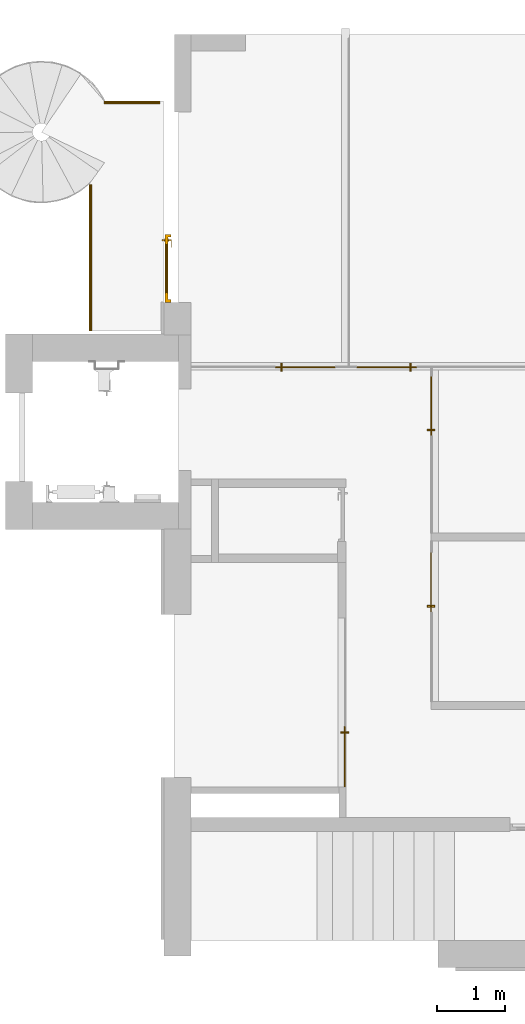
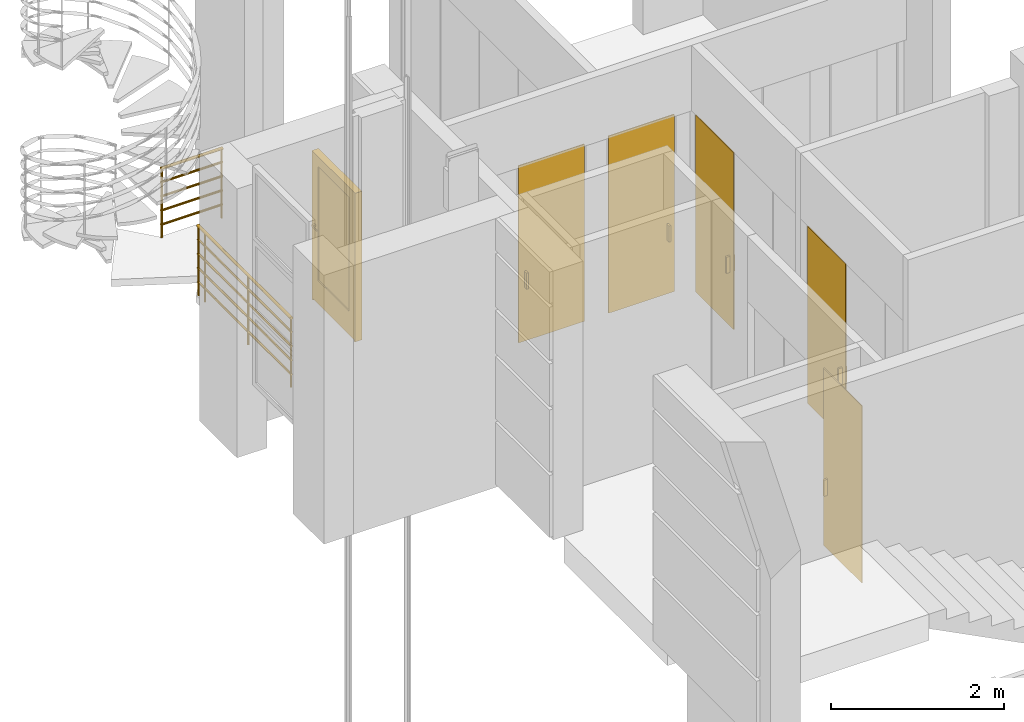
# One storey, part 9 of 14: 6 doors, 2 railings, 4 elements without a shape of their own.
"""IFC2X3 building model written with IfcOpenShell, lengths in millimetres."""

import ifcopenshell
import ifcopenshell.guid

model = None  # the IFC model being written
_history = None  # IfcOwnerHistory: only IFC2X3 demands one
_inside = {}  # id of a spatial element -> (the spatial element, [elements in it])
_under = {}  # id of a project, library or spatial element -> (it, [spatial elements below it])
_declared = {}  # id of a project -> (the project, [libraries it declares])
_typed = {}  # id of a type object -> (the type object, [elements of that type])
_made_of = {}  # id of a material, layer set ... -> (it, [elements and type objects made of it])


def new_model(schema):
    """Start an empty IFC model of exactly this schema.

    Asked for "IFC4X3", IfcOpenShell would pick the latest addendum, in which some entities
    have other attributes; the version numbers below select the first issue.
    IFC2X3 requires an IfcOwnerHistory on every rooted entity: one is made here for all.
    """
    global model, _history
    if schema == "IFC4X3":
        model = ifcopenshell.file(schema_version=(4, 3, 0, 0))
    else:
        model = ifcopenshell.file(schema=schema)
    _inside.clear()
    _under.clear()
    _declared.clear()
    _typed.clear()
    _made_of.clear()
    _history = None
    if model.schema == "IFC2X3":
        org = make("IfcOrganization", Name="unknown")
        user = make(
            "IfcPersonAndOrganization",
            ThePerson=make("IfcPerson", FamilyName="unknown"),
            TheOrganization=org,
        )
        app = make(
            "IfcApplication",
            ApplicationDeveloper=org,
            Version="unknown",
            ApplicationFullName="unknown",
            ApplicationIdentifier="unknown",
        )
        _history = make(
            "IfcOwnerHistory",
            OwningUser=user,
            OwningApplication=app,
            ChangeAction="ADDED",
            CreationDate=0,
        )
    return model


def make(cls, **values):
    """One entity of the class cls with the attributes given. An attribute that is None is left unset."""
    return model.create_entity(
        cls, **{name: value for name, value in values.items() if value is not None}
    )


def entity(cls, *values):
    """Any entity or typed value of the class cls, its attributes in the order of the schema. None: left unset."""
    e = model.create_entity(cls)
    for i, value in enumerate(values):
        if value is not None:
            e[i] = value
    return e


def rooted(cls, **values):
    """An entity with a GlobalId (a new one), such as an element, a storey or a relation."""
    return make(cls, GlobalId=ifcopenshell.guid.new(), OwnerHistory=_history, **values)


def si_unit(unit_type, name, prefix=None):
    """IfcSIUnit, for example si_unit("LENGTHUNIT", "METRE", prefix="MILLI")."""
    return make("IfcSIUnit", UnitType=unit_type, Prefix=prefix, Name=name)


def converted_unit(unit_type, name, factor, base, dimensions=None, offset=None):
    """IfcConversionBasedUnit, such as the inch: factor (a typed value) times the base unit."""
    return make(
        "IfcConversionBasedUnit"
        if offset is None
        else "IfcConversionBasedUnitWithOffset",
        ConversionOffset=offset,
        Dimensions=None
        if dimensions is None
        else entity("IfcDimensionalExponents", *dimensions),
        UnitType=unit_type,
        Name=name,
        ConversionFactor=make(
            "IfcMeasureWithUnit", ValueComponent=factor, UnitComponent=base
        ),
    )


def derived_unit(unit_type, elements):
    """IfcDerivedUnit: a product of units, each with its exponent."""
    return make(
        "IfcDerivedUnit",
        Elements=[
            make("IfcDerivedUnitElement", Unit=unit, Exponent=power)
            for unit, power in elements
        ],
        UnitType=unit_type,
    )


def assignment(units):
    """IfcUnitAssignment: the units of a project."""
    return None if units is None else make("IfcUnitAssignment", Units=units)


def point(xyz):
    """IfcCartesianPoint."""
    return None if xyz is None else make("IfcCartesianPoint", Coordinates=xyz)


def direction(xyz):
    """IfcDirection."""
    return None if xyz is None else make("IfcDirection", DirectionRatios=xyz)


def frame(location, z_axis=None, x_axis=None):
    """IfcAxis2Placement3D, a coordinate frame: its origin and axes. An axis left out is left unset."""
    return make(
        "IfcAxis2Placement3D",
        Location=point(location),
        Axis=direction(z_axis),
        RefDirection=direction(x_axis),
    )


def frame_2d(location, x_axis=None):
    """IfcAxis2Placement2D, a coordinate frame in the plane: its origin and x axis."""
    return make(
        "IfcAxis2Placement2D", Location=point(location), RefDirection=direction(x_axis)
    )


def origin():
    """The frame at (0, 0, 0) with its axes left unset."""
    return frame((0.0, 0.0, 0.0))


def origin_2d_with_axis():
    """The frame at (0, 0) in the plane with the x axis (1, 0) written out."""
    return frame_2d((0.0, 0.0), x_axis=(1.0, 0.0))


def place(relative_to, where):
    """IfcLocalPlacement: puts the frame where relative to a parent placement (None: the world)."""
    return make(
        "IfcLocalPlacement", PlacementRelTo=relative_to, RelativePlacement=where
    )


def context(
    kind, dimensions, precision=None, world=None, true_north=None, identifier=None
):
    """IfcGeometricRepresentationContext, for example the 3D "Model" context."""
    return make(
        "IfcGeometricRepresentationContext",
        ContextIdentifier=identifier,
        ContextType=kind,
        CoordinateSpaceDimension=dimensions,
        Precision=precision,
        WorldCoordinateSystem=world,
        TrueNorth=true_north,
    )


def subcontext(parent, identifier, kind, view, scale=None):
    """IfcGeometricRepresentationSubContext, for example "Body" below "Model"."""
    return make(
        "IfcGeometricRepresentationSubContext",
        ContextIdentifier=identifier,
        ContextType=kind,
        ParentContext=parent,
        TargetScale=scale,
        TargetView=view,
    )


def project(units=None, contexts=None):
    """IfcProject with its units and contexts."""
    return rooted(
        "IfcProject",
        Name="project",
        RepresentationContexts=contexts,
        UnitsInContext=assignment(units),
    )


def spatial(cls, under=None, at=None, **own):
    """A site, building, storey or space (cls), placed at a placement, below another one or the project."""
    s = rooted(cls, ObjectPlacement=at, **own)
    if under is not None:
        _under.setdefault(under.id(), (under, []))[1].append(s)
    return s


def profile(cls, at=None, kind="AREA", **sizes):
    """A parametric profile (cls). Its sizes go by their IFC names, for example OverallWidth=200.0."""
    return make(cls, ProfileType=kind, Position=at, **sizes)


def rectangle(**sizes):
    """IfcRectangleProfileDef."""
    return profile("IfcRectangleProfileDef", **sizes)


def circle(**sizes):
    """IfcCircleProfileDef."""
    return profile("IfcCircleProfileDef", **sizes)


def extrude(swept, where, along, depth):
    """IfcExtrudedAreaSolid: the profile swept, set in the frame where, extruded along a direction by depth."""
    return make(
        "IfcExtrudedAreaSolid",
        SweptArea=swept,
        Position=where,
        ExtrudedDirection=direction(along),
        Depth=depth,
    )


def faces_of(points, faces, orient=None, outer=None):
    """IfcFace entities. A face is a list of loops; a loop is a list of indices into points, from 0.

    orient and outer hold one flag for each loop. By default every Orientation is true, the
    first loop of a face is its IfcFaceOuterBound and the others are IfcFaceBound.
    """
    made = []
    for i, loops in enumerate(faces):
        bounds = []
        for j, loop in enumerate(loops):
            is_outer = j == 0 if outer is None else outer[i][j]
            bounds.append(
                make(
                    "IfcFaceOuterBound" if is_outer else "IfcFaceBound",
                    Bound=make("IfcPolyLoop", Polygon=[points[k] for k in loop]),
                    Orientation=True if orient is None else orient[i][j],
                )
            )
        made.append(make("IfcFace", Bounds=bounds))
    return made


def faceted_brep(points, faces, orient=None, outer=None, voids=None):
    """IfcFacetedBrep: a solid bounded by flat faces; with voids (closed shells), ...WithVoids."""
    shared = [point(p) for p in points]
    hull = make("IfcClosedShell", CfsFaces=faces_of(shared, faces, orient, outer))
    if voids is None:
        return make("IfcFacetedBrep", Outer=hull)
    return make(
        "IfcFacetedBrepWithVoids",
        Outer=hull,
        Voids=[
            make(cls, CfsFaces=faces_of(shared, fs, o, b)) for cls, fs, o, b in voids
        ],
    )


def shape(context_of_items, identifier, shape_type, items):
    """IfcShapeRepresentation: the items that make up one representation, for example the "Body"."""
    return make(
        "IfcShapeRepresentation",
        ContextOfItems=context_of_items,
        RepresentationIdentifier=identifier,
        RepresentationType=shape_type,
        Items=items,
    )


def source(mapping_origin, context_of_items, identifier, shape_type, items):
    """IfcRepresentationMap: a shape defined once, which mapped items show again and again."""
    return make(
        "IfcRepresentationMap",
        MappingOrigin=mapping_origin,
        MappedRepresentation=shape(context_of_items, identifier, shape_type, items),
    )


def transform(
    local_origin,
    x_axis=None,
    y_axis=None,
    z_axis=None,
    scale=None,
    scale2=None,
    scale3=None,
    uniform=True,
):
    """IfcCartesianTransformationOperator3D, or its non-uniform kind. x_axis, y_axis, z_axis: its Axis1, 2, 3."""
    if uniform:
        return make(
            "IfcCartesianTransformationOperator3D",
            Axis1=direction(x_axis),
            Axis2=direction(y_axis),
            LocalOrigin=point(local_origin),
            Scale=scale,
            Axis3=direction(z_axis),
        )
    return make(
        "IfcCartesianTransformationOperator3DnonUniform",
        Axis1=direction(x_axis),
        Axis2=direction(y_axis),
        LocalOrigin=point(local_origin),
        Scale=scale,
        Axis3=direction(z_axis),
        Scale2=scale2,
        Scale3=scale3,
    )


def mapped(mapping_source, mapping_target):
    """IfcMappedItem: shows the shape of a source again, moved by a transform."""
    return make(
        "IfcMappedItem", MappingSource=mapping_source, MappingTarget=mapping_target
    )


def material(Name=None, Category=None):
    """IfcMaterial."""
    return make("IfcMaterial", Name=Name, Category=Category)


def material_list(materials):
    """IfcMaterialList."""
    return make("IfcMaterialList", Materials=materials)


def made_of(thing, what):
    """Note that an element or type object is made of a material, layer set ...; save() writes the relation."""
    if what is not None:
        _made_of.setdefault(what.id(), (what, []))[1].append(thing)
    return thing


def type_object(cls, material=None, **own):
    """A type object (cls), such as IfcWallType, which elements share."""
    return made_of(rooted(cls, **own), material)


def type_shapes(of_type, sources):
    """Give a type object the sources (RepresentationMaps) that its elements show as mapped items."""
    of_type.RepresentationMaps = sources


def element(
    cls,
    number,
    at=None,
    inside=None,
    cuts=None,
    type_object=None,
    material=None,
    context=None,
    identifier="Body",
    shape_type=None,
    held_by="IfcProductDefinitionShape",
    body=None,
    shapes=None,
    **own,
):
    """One element of the class cls, such as IfcWall. Its Tag is "e" and its number.

    at: its placement. inside: the storey or other place that contains it. cuts: it is an
    opening in that element (IfcRelVoidsElement). A single representation is given by context,
    identifier, shape_type and body (its items); several are given by shapes. held_by: the class
    of the entity that holds the representations. save() writes the other relations.
    """
    e = rooted(cls, Tag="e%d" % number, ObjectPlacement=at, **own)
    if body is not None:
        shapes = [shape(context, identifier, shape_type, body)]
    if shapes is not None:
        e.Representation = make(held_by, Representations=shapes)
    if inside is not None:
        _inside.setdefault(inside.id(), (inside, []))[1].append(e)
    if cuts is not None:
        rooted(
            "IfcRelVoidsElement", RelatingBuildingElement=cuts, RelatedOpeningElement=e
        )
    if type_object is not None:
        _typed.setdefault(type_object.id(), (type_object, []))[1].append(e)
    return made_of(e, material)


def aggregate(whole, parts):
    """IfcRelAggregates: a whole, such as a stair, and the parts it consists of."""
    return rooted("IfcRelAggregates", RelatingObject=whole, RelatedObjects=parts)


def save(model, path):
    """Write the relations noted so far, then the file.

    IfcRelAggregates (storeys below a building ...), IfcRelContainedInSpatialStructure (elements
    in a storey), IfcRelDefinesByType, IfcRelAssociatesMaterial and IfcRelDeclares: one each for
    every whole, place, type object, material and project.
    """
    for whole, parts in _under.values():
        aggregate(whole, parts)
    for where, things in _inside.values():
        rooted(
            "IfcRelContainedInSpatialStructure",
            RelatedElements=things,
            RelatingStructure=where,
        )
    for kind, things in _typed.values():
        rooted("IfcRelDefinesByType", RelatedObjects=things, RelatingType=kind)
    for what, things in _made_of.values():
        rooted("IfcRelAssociatesMaterial", RelatedObjects=things, RelatingMaterial=what)
    for by, libraries in _declared.values():
        rooted("IfcRelDeclares", RelatingContext=by, RelatedDefinitions=libraries)
    model.write(path)


model = new_model("IFC2X3")

# Units and contexts
model_context = context("Model", 3, precision=0.01, world=origin(), true_north=direction((6.12303176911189e-17, 1.0)))
body_context = subcontext(model_context, "Body", "Model", "MODEL_VIEW")
ifc_project = project(units=[si_unit("LENGTHUNIT", "METRE", prefix="MILLI"), si_unit("AREAUNIT", "SQUARE_METRE"), si_unit("VOLUMEUNIT", "CUBIC_METRE"), converted_unit("PLANEANGLEUNIT", "DEGREE", entity("IfcRatioMeasure", 0.0174532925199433), si_unit("PLANEANGLEUNIT", "RADIAN"), dimensions=[0, 0, 0, 0, 0, 0, 0]), si_unit("MASSUNIT", "GRAM", prefix="KILO"), derived_unit("MASSDENSITYUNIT", [(si_unit("MASSUNIT", "GRAM", prefix="KILO"), 1), (si_unit("LENGTHUNIT", "METRE"), -3)]), si_unit("TIMEUNIT", "SECOND"), si_unit("FREQUENCYUNIT", "HERTZ"), si_unit("THERMODYNAMICTEMPERATUREUNIT", "DEGREE_CELSIUS"), derived_unit("THERMALTRANSMITTANCEUNIT", [(si_unit("MASSUNIT", "GRAM", prefix="KILO"), 1), (si_unit("THERMODYNAMICTEMPERATUREUNIT", "KELVIN"), -1), (si_unit("TIMEUNIT", "SECOND"), -3)]), derived_unit("VOLUMETRICFLOWRATEUNIT", [(si_unit("LENGTHUNIT", "METRE"), 3), (si_unit("TIMEUNIT", "SECOND"), -1)]), si_unit("ELECTRICCURRENTUNIT", "AMPERE"), si_unit("ELECTRICVOLTAGEUNIT", "VOLT"), si_unit("POWERUNIT", "WATT"), si_unit("FORCEUNIT", "NEWTON", prefix="KILO"), si_unit("ILLUMINANCEUNIT", "LUX"), si_unit("LUMINOUSFLUXUNIT", "LUMEN"), si_unit("LUMINOUSINTENSITYUNIT", "CANDELA"), derived_unit("USERDEFINED", [(si_unit("MASSUNIT", "GRAM", prefix="KILO"), -1), (si_unit("LENGTHUNIT", "METRE"), -2), (si_unit("TIMEUNIT", "SECOND"), 3), (si_unit("LUMINOUSFLUXUNIT", "LUMEN"), 1)]), derived_unit("LINEARVELOCITYUNIT", [(si_unit("LENGTHUNIT", "METRE"), 1), (si_unit("TIMEUNIT", "SECOND"), -1)]), si_unit("PRESSUREUNIT", "PASCAL"), derived_unit("USERDEFINED", [(si_unit("LENGTHUNIT", "METRE"), -2), (si_unit("MASSUNIT", "GRAM", prefix="KILO"), 1), (si_unit("TIMEUNIT", "SECOND"), -2)])], contexts=[model_context])

# Site, building, storey
site_placement = place(None, frame((-151.875543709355, 2715.0, 0.0)))
site = spatial("IfcSite", under=ifc_project, at=site_placement, Name="Surface", CompositionType="ELEMENT")
building_placement = place(site_placement, origin())
building = spatial("IfcBuilding", under=site, at=building_placement, CompositionType="ELEMENT")
storey_placement = place(building_placement, frame((0.0, 0.0, 3875.0)))
storey = spatial("IfcBuildingStorey", under=building, at=storey_placement, Name="uus 2 korrus", CompositionType="ELEMENT", Elevation=3875.00000000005)

# Door
ifc_material_1 = material(Name="_Alumiiniumprofiil - must")
ifc_material_2 = material(Name="Steel/Aluminium")
ifc_material_3 = material(Name="Glass")
ifc_material_list_1 = material_list([ifc_material_1, ifc_material_2, ifc_material_3])
ifc_material_list_2 = material_list([ifc_material_1, ifc_material_2, ifc_material_3])
door_style_1 = type_object("IfcDoorStyle", Name="1000x2100_klaasiga_välisuks", ConstructionType="NOTDEFINED", OperationType="FOLDING_TO_LEFT", ParameterTakesPrecedence=False, Sizeable=False, material=ifc_material_list_2)
shared_shape_1 = source(origin(), body_context, "Body", "Brep", [
    faceted_brep([(900.0, 42.0, 1112.5), (805.0, 42.0, 1112.5), (805.0, 37.0, 1112.5), (925.0, 37.0, 1112.5), (925.0, 80.0, 1112.5), (900.0, 80.0, 1112.5), (900.0, 42.0, 1087.5), (900.0, 80.0, 1087.5), (925.0, 80.0, 1087.5), (925.0, 37.0, 1087.5), (805.0, 37.0, 1087.5), (805.0, 42.0, 1087.5)], [[[0, 1, 2, 3, 4, 5]], [[6, 7, 8, 9, 10, 11]], [[5, 7, 6, 0]], [[4, 8, 7, 5]], [[3, 9, 8, 4]], [[2, 10, 9, 3]], [[1, 11, 10, 2]], [[0, 6, 11, 1]]]),
    faceted_brep([(887.500000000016, 80.0, 1137.5), (937.500000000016, 80.0, 1137.5), (937.500000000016, 82.0, 1137.5), (887.500000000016, 82.0, 1137.5), (887.500000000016, 80.0, 1017.5), (887.500000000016, 82.0, 1017.5), (937.500000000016, 82.0, 1017.5), (937.500000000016, 80.0, 1017.5)], [[[0, 1, 2, 3]], [[4, 5, 6, 7]], [[3, 5, 4, 0]], [[2, 6, 5, 3]], [[1, 7, 6, 2]], [[0, 4, 7, 1]]]),
    faceted_brep([(900.0, 172.0, 1112.5), (900.0, 134.0, 1112.5), (925.0, 134.0, 1112.5), (925.0, 177.0, 1112.5), (805.0, 177.0, 1112.5), (805.0, 172.0, 1112.5), (900.0, 172.0, 1087.5), (805.0, 172.0, 1087.5), (805.0, 177.0, 1087.5), (925.0, 177.0, 1087.5), (925.0, 134.0, 1087.5), (900.0, 134.0, 1087.5)], [[[0, 1, 2, 3, 4, 5]], [[6, 7, 8, 9, 10, 11]], [[1, 0, 6, 11]], [[2, 1, 11, 10]], [[3, 2, 10, 9]], [[4, 3, 9, 8]], [[5, 4, 8, 7]], [[0, 5, 7, 6]]]),
    faceted_brep([(887.500000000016, 134.0, 1137.5), (887.500000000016, 132.0, 1137.5), (937.500000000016, 132.0, 1137.5), (937.500000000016, 134.0, 1137.5), (887.500000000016, 134.0, 1017.5), (937.500000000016, 134.0, 1017.5), (937.500000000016, 132.0, 1017.5), (887.500000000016, 132.0, 1017.5)], [[[0, 1, 2, 3]], [[4, 5, 6, 7]], [[1, 0, 4, 7]], [[2, 1, 7, 6]], [[3, 2, 6, 5]], [[0, 3, 5, 4]]]),
    faceted_brep([(0.0, 42.0, 0.0), (0.0, 132.0, 0.0), (25.0, 132.0, 0.0), (25.0, 82.0, 0.0), (40.0, 82.0, 0.0), (40.0, 42.0, 0.0), (40.0, 42.0, 2060.0), (960.0, 42.0, 2060.0), (960.0, 42.0, 0.0), (1000.0, 42.0, 0.0), (1000.0, 42.0, 2100.0), (0.0, 42.0, 2100.0), (40.0, 82.0, 2060.0), (25.0, 82.0, 2075.0), (975.0, 82.0, 2075.0), (975.0, 82.0, 0.0), (960.0, 82.0, 0.0), (960.0, 82.0, 2060.0), (25.0, 132.0, 2075.0), (0.0, 132.0, 2100.0), (1000.0, 132.0, 2100.0), (1000.0, 132.0, 0.0), (975.0, 132.0, 0.0), (975.0, 132.0, 2075.0)], [[[0, 1, 2, 3, 4, 5]], [[5, 6, 7, 8, 9, 10, 11, 0]], [[4, 12, 6, 5]], [[3, 13, 14, 15, 16, 17, 12, 4]], [[2, 18, 13, 3]], [[1, 19, 20, 21, 22, 23, 18, 2]], [[0, 11, 19, 1]], [[9, 21, 20, 10]], [[8, 16, 15, 22, 21, 9]], [[7, 17, 16, 8]], [[14, 23, 22, 15]], [[6, 12, 17, 7]], [[13, 18, 23, 14]], [[10, 20, 19, 11]]]),
    faceted_brep([(140.0, 97.0, 350.0), (860.0, 97.0, 350.0), (860.0, 97.0, 1960.0), (140.0, 97.0, 1960.0), (140.0, 117.0, 350.0), (140.0, 117.0, 1960.0), (860.0, 117.0, 1960.0), (860.0, 117.0, 350.0)], [[[0, 1, 2, 3]], [[4, 5, 6, 7]], [[3, 5, 4, 0]], [[2, 6, 5, 3]], [[1, 7, 6, 2]], [[0, 4, 7, 1]]]),
    faceted_brep([(25.0, 82.0, 20.0), (975.0, 82.0, 20.0), (975.0, 82.0, 2075.0), (25.0, 82.0, 2075.0), (860.0, 82.0, 350.0), (140.0, 82.0, 350.0), (140.0, 82.0, 1960.0), (860.0, 82.0, 1960.0), (25.0, 132.0, 20.0), (25.0, 132.0, 2075.0), (975.0, 132.0, 2075.0), (975.0, 132.0, 20.0), (860.0, 132.0, 1960.0), (140.0, 132.0, 1960.0), (140.0, 132.0, 350.0), (860.0, 132.0, 350.0)], [[[0, 1, 2, 3], [4, 5, 6, 7]], [[8, 9, 10, 11], [12, 13, 14, 15]], [[3, 9, 8, 0]], [[2, 10, 9, 3]], [[1, 11, 10, 2]], [[0, 8, 11, 1]], [[12, 15, 4, 7]], [[15, 14, 5, 4]], [[14, 13, 6, 5]], [[7, 6, 13, 12]]]),
])
type_shapes(door_style_1, [shared_shape_1])
door_1_placement = place(storey_placement, frame((31744.6162682, 22610.0, 0.0), z_axis=(0.0, 0.0, 1.0), x_axis=(0.0, 1.0, 0.0)))
element("IfcDoor", 1, at=door_1_placement, inside=storey, type_object=door_style_1, material=ifc_material_list_1, Name="Ühepoolsed:1000x2100_klaasiga_välisuks", ObjectType="1000x2100_klaasiga_välisuks", OverallHeight=2099.99999999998, OverallWidth=2240.0, context=body_context, shape_type="MappedRepresentation", body=[
    mapped(shared_shape_1, transform((0.0, 0.0, 0.0), scale=1.0)),
])

# Curtain wall, doors
curtain_wall_type_1 = type_object("IfcCurtainWallType", Name="Curtain Wall:Klaassein KLS-15", PredefinedType="NOTDEFINED")
curtain_wall_1_placement = place(storey_placement, frame((0.0, 0.0, -3875.0)))
curtain_wall_1 = element("IfcCurtainWall", 2, at=curtain_wall_1_placement, inside=storey, type_object=curtain_wall_type_1, Name="Curtain Wall:Klaassein KLS-15", ObjectType="Curtain Wall:Klaassein KLS-15")
ifc_material_4 = material(Name="Aluminum")
ifc_material_list_3 = material_list([ifc_material_3, ifc_material_4])
ifc_material_list_4 = material_list([ifc_material_3, ifc_material_4])
door_style_2 = type_object("IfcDoorStyle", Name="Klaasuks", ConstructionType="NOTDEFINED", OperationType="NOTDEFINED", ParameterTakesPrecedence=False, Sizeable=False, material=ifc_material_list_4)
shared_shape_2 = source(origin(), body_context, "Body", "SweptSolid", [
    extrude(rectangle(XDim=879.999999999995, YDim=12.7000000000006, at=origin_2d_with_axis()), frame((0.0, -6.34999999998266, 0.0), z_axis=(0.0, 0.0, 1.0), x_axis=(-1.0, 0.0, 0.0)), (0.0, 0.0, 1.0), 2500.00000000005),
    extrude(rectangle(XDim=50.8, YDim=25.3999999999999, at=origin_2d_with_axis()), frame((-351.099999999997, -38.099999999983, 762.0), z_axis=(0.0, 0.0, 1.0), x_axis=(0.0, 1.0, 0.0)), (0.0, 0.0, 1.0), 228.6),
    extrude(rectangle(XDim=50.8, YDim=25.3999999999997, at=frame_2d((0.0, 3.37507799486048e-14), x_axis=(1.0, 0.0))), frame((-351.099999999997, 25.4000000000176, 762.0), z_axis=(0.0, 0.0, 1.0), x_axis=(0.0, -1.0, 0.0)), (0.0, 0.0, 1.0), 228.6),
])
type_shapes(door_style_2, [shared_shape_2])
door_2_placement = place(curtain_wall_1_placement, frame((33681.3161980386, 21659.9585633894, 3875.0)))
door_2 = element("IfcDoor", 3, at=door_2_placement, type_object=door_style_2, material=ifc_material_list_3, Name="Door-Curtain-Wall-Single-Glass:Klaasuks", ObjectType="Klaasuks", OverallHeight=2500.00000000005, OverallWidth=879.999999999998, context=body_context, shape_type="MappedRepresentation", body=[
    mapped(shared_shape_2, transform((0.0, 0.0, 0.0), scale=1.0)),
])
ifc_material_list_5 = material_list([ifc_material_3, ifc_material_4])
ifc_material_list_6 = material_list([ifc_material_3, ifc_material_4])
door_style_3 = type_object("IfcDoorStyle", Name="Klaasuks", ConstructionType="NOTDEFINED", OperationType="NOTDEFINED", ParameterTakesPrecedence=False, Sizeable=False, material=ifc_material_list_6)
shared_shape_3 = source(origin(), body_context, "Body", "SweptSolid", [
    extrude(rectangle(XDim=12.7000000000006, YDim=879.999999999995, at=origin_2d_with_axis()), frame((0.0, 6.34999999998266, 0.0), z_axis=(0.0, 0.0, 1.0), x_axis=(0.0, 1.0, 0.0)), (0.0, 0.0, 1.0), 2500.00000000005),
    extrude(rectangle(XDim=25.3999999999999, YDim=50.8, at=frame_2d((0.0, -3.5527136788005e-15), x_axis=(1.0, 0.0))), frame((-351.099999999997, 38.099999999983, 762.0), z_axis=(0.0, 0.0, 1.0), x_axis=(-1.0, 0.0, 0.0)), (0.0, 0.0, 1.0), 228.6),
    extrude(rectangle(XDim=25.3999999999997, YDim=50.8, at=frame_2d((3.37507799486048e-14, -1.77635683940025e-15), x_axis=(1.0, 0.0))), frame((-351.099999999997, -25.4000000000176, 762.0)), (0.0, 0.0, 1.0), 228.6),
])
type_shapes(door_style_3, [shared_shape_3])
door_3_placement = place(curtain_wall_1_placement, frame((34881.3161980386, 21659.9585633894, 3875.0), z_axis=(0.0, 0.0, 1.0), x_axis=(-1.0, 0.0, 0.0)))
door_3 = element("IfcDoor", 4, at=door_3_placement, type_object=door_style_3, material=ifc_material_list_5, Name="Door-Curtain-Wall-Single-Glass:Klaasuks", ObjectType="Klaasuks", OverallHeight=2500.00000000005, OverallWidth=879.999999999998, context=body_context, shape_type="MappedRepresentation", body=[
    mapped(shared_shape_3, transform((0.0, 0.0, 0.0), scale=1.0)),
])
aggregate(curtain_wall_1, [door_2, door_3])

# Curtain wall, door
curtain_wall_type_2 = type_object("IfcCurtainWallType", Name="Curtain Wall:Klaassein KLS-14", PredefinedType="NOTDEFINED")
curtain_wall_2_placement = place(storey_placement, frame((0.0, 0.0, -3875.0)))
curtain_wall_2 = element("IfcCurtainWall", 5, at=curtain_wall_2_placement, inside=storey, type_object=curtain_wall_type_2, Name="Curtain Wall:Klaassein KLS-14", ObjectType="Curtain Wall:Klaassein KLS-14")
ifc_material_list_7 = material_list([ifc_material_3, ifc_material_4])
door_4_placement = place(curtain_wall_2_placement, frame((35541.6162681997, 21080.2792834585, 3875.0), z_axis=(0.0, 0.0, 1.0), x_axis=(0.0, 1.0, 0.0)))
door_4 = element("IfcDoor", 6, at=door_4_placement, type_object=door_style_3, material=ifc_material_list_7, Name="Door-Curtain-Wall-Single-Glass:Klaasuks", ObjectType="Klaasuks", OverallHeight=2500.00000000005, OverallWidth=879.999999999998, context=body_context, shape_type="MappedRepresentation", body=[
    mapped(shared_shape_3, transform((0.0, 0.0, 0.0), scale=1.0)),
])
aggregate(curtain_wall_2, [door_4])

curtain_wall_type_3 = type_object("IfcCurtainWallType", Name="Curtain Wall:Klaassein KLS-13", PredefinedType="NOTDEFINED")
curtain_wall_3_placement = place(storey_placement, frame((0.0, 0.0, -3875.0)))
curtain_wall_3 = element("IfcCurtainWall", 7, at=curtain_wall_3_placement, inside=storey, type_object=curtain_wall_type_3, Name="Curtain Wall:Klaassein KLS-13", ObjectType="Curtain Wall:Klaassein KLS-13")
ifc_material_list_8 = material_list([ifc_material_3, ifc_material_4])
door_5_placement = place(curtain_wall_3_placement, frame((35540.8324752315, 18484.0897464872, 3875.0), z_axis=(0.0, 0.0, 1.0), x_axis=(0.0, 1.0, 0.0)))
door_5 = element("IfcDoor", 8, at=door_5_placement, type_object=door_style_3, material=ifc_material_list_8, Name="Door-Curtain-Wall-Single-Glass:Klaasuks", ObjectType="Klaasuks", OverallHeight=2500.00000000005, OverallWidth=879.999999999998, context=body_context, shape_type="MappedRepresentation", body=[
    mapped(shared_shape_3, transform((0.0, 0.0, 0.0), scale=1.0)),
])
aggregate(curtain_wall_3, [door_5])

curtain_wall_type_4 = type_object("IfcCurtainWallType", Name="Curtain Wall:Klaassein KLS-12", PredefinedType="NOTDEFINED")
curtain_wall_4_placement = place(storey_placement, frame((0.0, 0.0, -3875.0)))
curtain_wall_4 = element("IfcCurtainWall", 9, at=curtain_wall_4_placement, inside=storey, type_object=curtain_wall_type_4, Name="Curtain Wall:Klaassein KLS-12", ObjectType="Curtain Wall:Klaassein KLS-12")
ifc_material_list_9 = material_list([ifc_material_3, ifc_material_4])
ifc_material_list_10 = material_list([ifc_material_3, ifc_material_4])
door_style_4 = type_object("IfcDoorStyle", Name="Klaasuks", ConstructionType="NOTDEFINED", OperationType="NOTDEFINED", ParameterTakesPrecedence=False, Sizeable=False, material=ifc_material_list_10)
shared_shape_4 = source(origin(), body_context, "Body", "SweptSolid", [
    extrude(rectangle(XDim=890.000000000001, YDim=12.7000000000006, at=origin_2d_with_axis()), frame((0.0, -6.34999999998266, 0.0), z_axis=(0.0, 0.0, 1.0), x_axis=(-1.0, 0.0, 0.0)), (0.0, 0.0, 1.0), 2500.00000000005),
    extrude(rectangle(XDim=50.8, YDim=25.3999999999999, at=origin_2d_with_axis()), frame((-356.1, -38.099999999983, 762.0), z_axis=(0.0, 0.0, 1.0), x_axis=(0.0, 1.0, 0.0)), (0.0, 0.0, 1.0), 228.6),
    extrude(rectangle(XDim=50.8, YDim=25.3999999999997, at=frame_2d((0.0, 3.37507799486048e-14), x_axis=(1.0, 0.0))), frame((-356.100000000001, 25.4000000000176, 762.0), z_axis=(0.0, 0.0, 1.0), x_axis=(0.0, -1.0, 0.0)), (0.0, 0.0, 1.0), 228.6),
])
type_shapes(door_style_4, [shared_shape_4])
door_6_placement = place(curtain_wall_4_placement, frame((34270.014162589, 15915.0, 3875.0), z_axis=(0.0, 0.0, 1.0), x_axis=(0.0, -1.0, 0.0)))
door_6 = element("IfcDoor", 10, at=door_6_placement, type_object=door_style_4, material=ifc_material_list_9, Name="Door-Curtain-Wall-Single-Glass:Klaasuks", ObjectType="Klaasuks", OverallHeight=2500.00000000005, OverallWidth=890.000000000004, context=body_context, shape_type="MappedRepresentation", body=[
    mapped(shared_shape_4, transform((0.0, 0.0, 0.0), scale=1.0)),
])
aggregate(curtain_wall_4, [door_6])

# Railings
railing_1_placement = place(storey_placement, origin())
element("IfcRailing", 11, at=railing_1_placement, inside=storey, Name="Railing:Piire hor_post - 1000mm", ObjectType="Railing:Piire hor_post - 1000mm", PredefinedType="NOTDEFINED", context=body_context, shape_type="SweptSolid", body=[
    extrude(circle(Radius=12.5, at=origin_2d_with_axis()), frame((30517.6162682, 24184.0, 0.0), z_axis=(0.0, 0.0, 1.0), x_axis=(-1.0, 0.0, 0.0)), (0.0, 0.0, 1.0), 960.0),
    extrude(circle(Radius=12.5, at=origin_2d_with_axis()), frame((30517.6162682, 23184.0, 0.0), z_axis=(0.0, 0.0, 1.0), x_axis=(-1.0, 0.0, 0.0)), (0.0, 0.0, 1.0), 960.0),
    extrude(circle(Radius=12.5, at=origin_2d_with_axis()), frame((30517.6162682, 24331.1976020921, 0.0), z_axis=(0.0, 0.0, 1.0), x_axis=(-1.0, 0.0, 0.0)), (0.0, 0.0, 1.0), 960.0),
    extrude(circle(Radius=12.5, at=origin_2d_with_axis()), frame((30517.6162682, 22196.5000001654, 0.0), z_axis=(0.0, 0.0, 1.0), x_axis=(-1.0, 0.0, 0.0)), (0.0, 0.0, 1.0), 960.0),
    extrude(circle(Radius=20.0, at=origin_2d_with_axis()), frame((30517.6162682, 22184.0, 980.0), z_axis=(0.0, 1.0, 0.0), x_axis=(1.0, 0.0, 0.0)), (0.0, 0.0, 1.0), 2159.69760192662),
    extrude(circle(Radius=15.0, at=origin_2d_with_axis()), frame((30517.6162682, 22184.0, 785.0), z_axis=(0.0, 1.0, 0.0), x_axis=(1.0, 0.0, 0.0)), (0.0, 0.0, 1.0), 2159.69760192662),
    extrude(circle(Radius=15.0, at=origin_2d_with_axis()), frame((30517.6162682, 22184.0, 585.0), z_axis=(0.0, 1.0, 0.0), x_axis=(1.0, 0.0, 0.0)), (0.0, 0.0, 1.0), 2159.69760192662),
    extrude(circle(Radius=15.0, at=origin_2d_with_axis()), frame((30517.6162682, 22184.0, 385.0), z_axis=(0.0, 1.0, 0.0), x_axis=(1.0, 0.0, 0.0)), (0.0, 0.0, 1.0), 2159.69760192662),
    extrude(circle(Radius=15.0, at=origin_2d_with_axis()), frame((30517.6162682, 22184.0, 185.0), z_axis=(0.0, 1.0, 0.0), x_axis=(1.0, 0.0, 0.0)), (0.0, 0.0, 1.0), 2159.69760192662),
])
railing_2_placement = place(storey_placement, origin())
element("IfcRailing", 12, at=railing_2_placement, inside=storey, Name="Railing:Piire hor_post - 1000mm", ObjectType="Railing:Piire hor_post - 1000mm", PredefinedType="NOTDEFINED", context=body_context, shape_type="SweptSolid", body=[
    extrude(circle(Radius=12.5, at=origin_2d_with_axis()), frame((30730.0942507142, 25552.9791769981, 0.0), z_axis=(0.0, 0.0, 1.0), x_axis=(0.0, 1.0, 0.0)), (0.0, 0.0, 1.0), 960.0),
    extrude(circle(Radius=12.5, at=origin_2d_with_axis()), frame((31530.1162682, 25552.9791769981, 0.0), z_axis=(0.0, 0.0, 1.0), x_axis=(0.0, 1.0, 0.0)), (0.0, 0.0, 1.0), 960.0),
    extrude(circle(Radius=20.0, at=origin_2d_with_axis()), frame((30717.5942507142, 25552.9791769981, 980.0), z_axis=(1.0, 0.0, 0.0), x_axis=(0.0, -1.0, 0.0)), (0.0, 0.0, 1.0), 825.022017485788),
    extrude(circle(Radius=15.0, at=origin_2d_with_axis()), frame((30717.5942507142, 25552.9791769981, 785.0), z_axis=(1.0, 0.0, 0.0), x_axis=(0.0, -1.0, 0.0)), (0.0, 0.0, 1.0), 825.022017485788),
    extrude(circle(Radius=15.0, at=origin_2d_with_axis()), frame((30717.5942507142, 25552.9791769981, 585.0), z_axis=(1.0, 0.0, 0.0), x_axis=(0.0, -1.0, 0.0)), (0.0, 0.0, 1.0), 825.022017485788),
    extrude(circle(Radius=15.0, at=origin_2d_with_axis()), frame((30717.5942507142, 25552.9791769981, 385.0), z_axis=(1.0, 0.0, 0.0), x_axis=(0.0, -1.0, 0.0)), (0.0, 0.0, 1.0), 825.022017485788),
    extrude(circle(Radius=15.0, at=origin_2d_with_axis()), frame((30717.5942507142, 25552.9791769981, 185.0), z_axis=(1.0, 0.0, 0.0), x_axis=(0.0, -1.0, 0.0)), (0.0, 0.0, 1.0), 825.022017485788),
])

save(model, "model.ifc")
